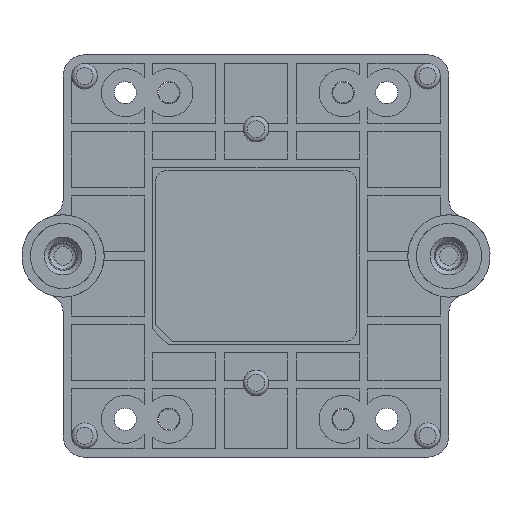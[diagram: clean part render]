
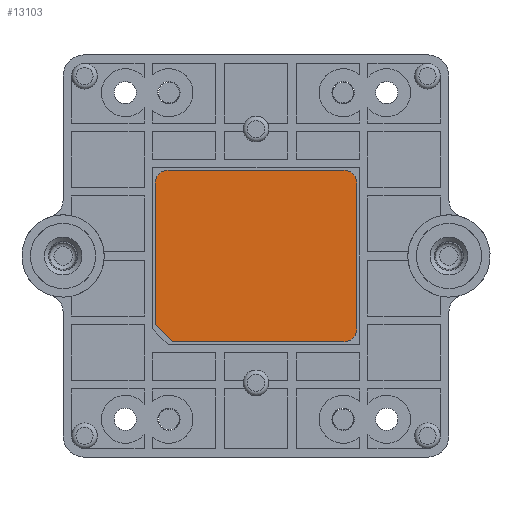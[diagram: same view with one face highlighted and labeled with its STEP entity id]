
A CAD part, left-side view. The second image highlights one B-rep face of the part: STEP entity #13103.
In plain terms, the highlighted planar face has unit normal (-1, 0, 0).
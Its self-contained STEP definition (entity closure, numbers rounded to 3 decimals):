
#12839=CARTESIAN_POINT('',(-25.7,-10.75,20.665));
#12840=VERTEX_POINT('',#12839);
#12841=CARTESIAN_POINT('',(-25.7,-10.75,3.665));
#12842=VERTEX_POINT('',#12841);
#12843=CARTESIAN_POINT('',(-25.7,-10.75,20.665));
#12844=DIRECTION('',(0.0,0.0,-1.0));
#12845=VECTOR('',#12844,17.);
#12846=LINE('',#12843,#12845);
#12847=EDGE_CURVE('',#12840,#12842,#12846,.T.);
#12879=CARTESIAN_POINT('',(-25.7,-9.25,2.165));
#12880=VERTEX_POINT('',#12879);
#12881=CARTESIAN_POINT('',(-25.7,-9.25,3.665));
#12882=DIRECTION('',(1.0,0.0,0.0));
#12883=DIRECTION('',(0.0,0.0,1.0));
#12884=AXIS2_PLACEMENT_3D('',#12881,#12882,#12883);
#12885=CIRCLE('',#12884,1.5);
#12886=EDGE_CURVE('',#12842,#12880,#12885,.T.);
#12912=CARTESIAN_POINT('',(-25.7,10.75,2.165));
#12913=VERTEX_POINT('',#12912);
#12914=CARTESIAN_POINT('',(-25.7,-9.25,2.165));
#12915=DIRECTION('',(0.0,1.0,0.0));
#12916=VECTOR('',#12915,20.0);
#12917=LINE('',#12914,#12916);
#12918=EDGE_CURVE('',#12880,#12913,#12917,.T.);
#12943=CARTESIAN_POINT('',(-25.7,12.75,4.165));
#12944=VERTEX_POINT('',#12943);
#12945=CARTESIAN_POINT('',(-25.7,10.75,2.165));
#12946=DIRECTION('',(0.0,0.707,0.707));
#12947=VECTOR('',#12946,2.828);
#12948=LINE('',#12945,#12947);
#12949=EDGE_CURVE('',#12913,#12944,#12948,.T.);
#12974=CARTESIAN_POINT('',(-25.7,12.75,20.665));
#12975=VERTEX_POINT('',#12974);
#12976=CARTESIAN_POINT('',(-25.7,12.75,4.165));
#12977=DIRECTION('',(0.0,0.0,1.0));
#12978=VECTOR('',#12977,16.5);
#12979=LINE('',#12976,#12978);
#12980=EDGE_CURVE('',#12944,#12975,#12979,.T.);
#13005=CARTESIAN_POINT('',(-25.7,11.25,22.165));
#13006=VERTEX_POINT('',#13005);
#13007=CARTESIAN_POINT('',(-25.7,11.25,20.665));
#13008=DIRECTION('',(1.0,0.0,0.0));
#13009=DIRECTION('',(0.0,0.0,-1.0));
#13010=AXIS2_PLACEMENT_3D('',#13007,#13008,#13009);
#13011=CIRCLE('',#13010,1.5);
#13012=EDGE_CURVE('',#12975,#13006,#13011,.T.);
#13038=CARTESIAN_POINT('',(-25.7,-9.25,22.165));
#13039=VERTEX_POINT('',#13038);
#13040=CARTESIAN_POINT('',(-25.7,11.25,22.165));
#13041=DIRECTION('',(0.0,-1.0,0.0));
#13042=VECTOR('',#13041,20.5);
#13043=LINE('',#13040,#13042);
#13044=EDGE_CURVE('',#13006,#13039,#13043,.T.);
#13069=CARTESIAN_POINT('',(-25.7,-9.25,20.665));
#13070=DIRECTION('',(1.0,0.0,0.0));
#13071=DIRECTION('',(0.0,1.0,0.0));
#13072=AXIS2_PLACEMENT_3D('',#13069,#13070,#13071);
#13073=CIRCLE('',#13072,1.5);
#13074=EDGE_CURVE('',#13039,#12840,#13073,.T.);
#13088=CARTESIAN_POINT('',(-25.7,0.919,12.235));
#13089=DIRECTION('',(-1.0,0.0,0.0));
#13090=DIRECTION('',(0.0,-1.0,0.0));
#13091=AXIS2_PLACEMENT_3D('',#13088,#13089,#13090);
#13092=PLANE('',#13091);
#13093=ORIENTED_EDGE('',*,*,#12847,.F.);
#13094=ORIENTED_EDGE('',*,*,#13074,.F.);
#13095=ORIENTED_EDGE('',*,*,#13044,.F.);
#13096=ORIENTED_EDGE('',*,*,#13012,.F.);
#13097=ORIENTED_EDGE('',*,*,#12980,.F.);
#13098=ORIENTED_EDGE('',*,*,#12949,.F.);
#13099=ORIENTED_EDGE('',*,*,#12918,.F.);
#13100=ORIENTED_EDGE('',*,*,#12886,.F.);
#13101=EDGE_LOOP('',(#13093,#13094,#13095,#13096,#13097,#13098,#13099,#13100));
#13102=FACE_OUTER_BOUND('',#13101,.T.);
#13103=ADVANCED_FACE('',(#13102),#13092,.T.);
